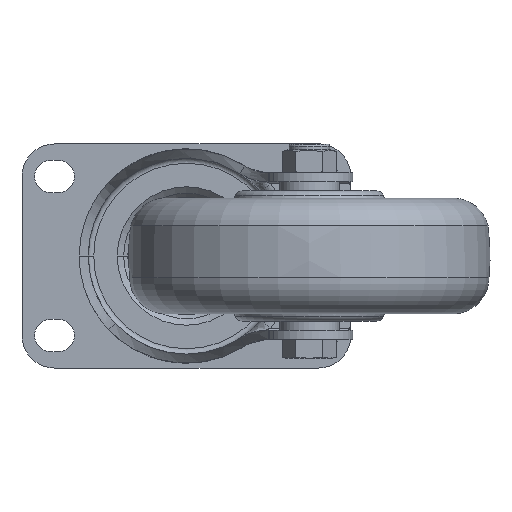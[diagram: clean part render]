
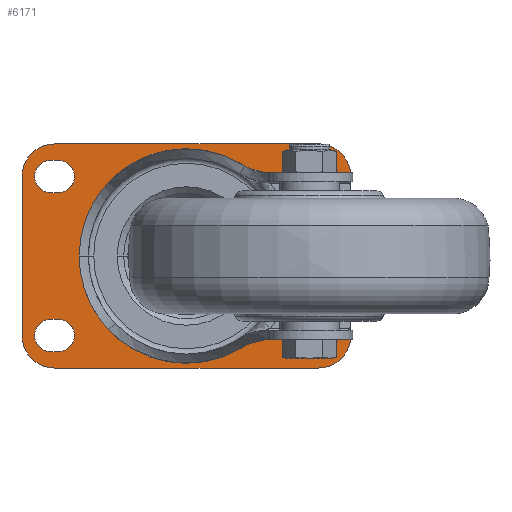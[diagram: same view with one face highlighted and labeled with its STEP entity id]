
A CAD part, front view. The second image highlights one B-rep face of the part: STEP entity #6171.
In plain terms, the highlighted planar face has unit normal (0, -1, 0).
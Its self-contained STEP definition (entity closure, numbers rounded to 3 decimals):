
#5396=DIRECTION('',(-1.,0.,0.));
#5397=VECTOR('',#5396,2.);
#5398=CARTESIAN_POINT('',(-35.5,7.5,-26.5));
#5399=LINE('',#5398,#5397);
#5400=CARTESIAN_POINT('',(-35.5,7.5,-22.));
#5401=DIRECTION('',(0.,-1.,0.));
#5402=DIRECTION('',(0.,0.,-1.));
#5403=AXIS2_PLACEMENT_3D('',#5400,#5401,#5402);
#5405=DIRECTION('',(1.,0.,0.));
#5406=VECTOR('',#5405,2.);
#5407=CARTESIAN_POINT('',(-37.5,7.5,-17.5));
#5408=LINE('',#5407,#5406);
#5409=CARTESIAN_POINT('',(-37.5,7.5,-22.));
#5410=DIRECTION('',(0.,-1.,0.));
#5411=DIRECTION('',(0.,0.,1.));
#5412=AXIS2_PLACEMENT_3D('',#5409,#5410,#5411);
#5414=CARTESIAN_POINT('',(37.5,7.5,-22.));
#5415=DIRECTION('',(0.,-1.,0.));
#5416=DIRECTION('',(0.,0.,-1.));
#5417=AXIS2_PLACEMENT_3D('',#5414,#5415,#5416);
#5419=DIRECTION('',(1.,0.,0.));
#5420=VECTOR('',#5419,2.);
#5421=CARTESIAN_POINT('',(35.5,7.5,-17.5));
#5422=LINE('',#5421,#5420);
#5423=CARTESIAN_POINT('',(35.5,7.5,-22.));
#5424=DIRECTION('',(0.,-1.,0.));
#5425=DIRECTION('',(0.,0.,1.));
#5426=AXIS2_PLACEMENT_3D('',#5423,#5424,#5425);
#5428=DIRECTION('',(-1.,0.,0.));
#5429=VECTOR('',#5428,2.);
#5430=CARTESIAN_POINT('',(37.5,7.5,-26.5));
#5431=LINE('',#5430,#5429);
#5432=DIRECTION('',(1.,0.,0.));
#5433=VECTOR('',#5432,2.);
#5434=CARTESIAN_POINT('',(35.5,7.5,26.5));
#5435=LINE('',#5434,#5433);
#5436=CARTESIAN_POINT('',(35.5,7.5,22.));
#5437=DIRECTION('',(0.,-1.,0.));
#5438=DIRECTION('',(0.,0.,1.));
#5439=AXIS2_PLACEMENT_3D('',#5436,#5437,#5438);
#5441=DIRECTION('',(-1.,0.,0.));
#5442=VECTOR('',#5441,2.);
#5443=CARTESIAN_POINT('',(37.5,7.5,17.5));
#5444=LINE('',#5443,#5442);
#5445=CARTESIAN_POINT('',(37.5,7.5,22.));
#5446=DIRECTION('',(0.,-1.,0.));
#5447=DIRECTION('',(0.,0.,-1.));
#5448=AXIS2_PLACEMENT_3D('',#5445,#5446,#5447);
#5450=CARTESIAN_POINT('',(-37.5,7.5,22.));
#5451=DIRECTION('',(0.,-1.,0.));
#5452=DIRECTION('',(0.,0.,1.));
#5453=AXIS2_PLACEMENT_3D('',#5450,#5451,#5452);
#5455=DIRECTION('',(-1.,0.,0.));
#5456=VECTOR('',#5455,2.);
#5457=CARTESIAN_POINT('',(-35.5,7.5,17.5));
#5458=LINE('',#5457,#5456);
#5459=CARTESIAN_POINT('',(-35.5,7.5,22.));
#5460=DIRECTION('',(0.,-1.,0.));
#5461=DIRECTION('',(0.,0.,-1.));
#5462=AXIS2_PLACEMENT_3D('',#5459,#5460,#5461);
#5464=DIRECTION('',(1.,0.,0.));
#5465=VECTOR('',#5464,2.);
#5466=CARTESIAN_POINT('',(-37.5,7.5,26.5));
#5467=LINE('',#5466,#5465);
#5468=CARTESIAN_POINT('',(36.5,7.5,-22.));
#5469=DIRECTION('',(0.,-1.,0.));
#5470=DIRECTION('',(0.,0.,-1.));
#5471=AXIS2_PLACEMENT_3D('',#5468,#5469,#5470);
#5473=DIRECTION('',(1.,0.,0.));
#5474=VECTOR('',#5473,73.);
#5475=CARTESIAN_POINT('',(-36.5,7.5,-31.));
#5476=LINE('',#5475,#5474);
#5477=CARTESIAN_POINT('',(-36.5,7.5,-22.));
#5478=DIRECTION('',(0.,-1.,0.));
#5479=DIRECTION('',(-1.,0.,0.));
#5480=AXIS2_PLACEMENT_3D('',#5477,#5478,#5479);
#5482=DIRECTION('',(0.,0.,-1.));
#5483=VECTOR('',#5482,44.);
#5484=CARTESIAN_POINT('',(-45.5,7.5,22.));
#5485=LINE('',#5484,#5483);
#5486=CARTESIAN_POINT('',(-36.5,7.5,22.));
#5487=DIRECTION('',(0.,-1.,0.));
#5488=DIRECTION('',(0.,0.,1.));
#5489=AXIS2_PLACEMENT_3D('',#5486,#5487,#5488);
#5491=DIRECTION('',(-1.,0.,0.));
#5492=VECTOR('',#5491,73.);
#5493=CARTESIAN_POINT('',(36.5,7.5,31.));
#5494=LINE('',#5493,#5492);
#5495=CARTESIAN_POINT('',(36.5,7.5,22.));
#5496=DIRECTION('',(0.,-1.,0.));
#5497=DIRECTION('',(1.,0.,0.));
#5498=AXIS2_PLACEMENT_3D('',#5495,#5496,#5497);
#5500=DIRECTION('',(0.,0.,1.));
#5501=VECTOR('',#5500,44.);
#5502=CARTESIAN_POINT('',(45.5,7.5,-22.));
#5503=LINE('',#5502,#5501);
#5504=CARTESIAN_POINT('',(0.,7.5,0.));
#5505=DIRECTION('',(0.,-1.,0.));
#5506=DIRECTION('',(-1.,0.,0.));
#5507=AXIS2_PLACEMENT_3D('',#5504,#5505,#5506);
#5509=CARTESIAN_POINT('',(0.,7.5,0.));
#5510=DIRECTION('',(0.,-1.,0.));
#5511=DIRECTION('',(1.,0.,0.));
#5512=AXIS2_PLACEMENT_3D('',#5509,#5510,#5511);
#5738=CARTESIAN_POINT('',(-35.5,7.5,-26.5));
#5739=CARTESIAN_POINT('',(-37.5,7.5,-26.5));
#5740=VERTEX_POINT('',#5738);
#5741=VERTEX_POINT('',#5739);
#5742=CARTESIAN_POINT('',(-35.5,7.5,-17.5));
#5743=VERTEX_POINT('',#5742);
#5744=CARTESIAN_POINT('',(-37.5,7.5,-17.5));
#5745=VERTEX_POINT('',#5744);
#5746=CARTESIAN_POINT('',(37.5,7.5,-26.5));
#5747=CARTESIAN_POINT('',(37.5,7.5,-17.5));
#5748=VERTEX_POINT('',#5746);
#5749=VERTEX_POINT('',#5747);
#5750=CARTESIAN_POINT('',(35.5,7.5,-17.5));
#5751=VERTEX_POINT('',#5750);
#5752=CARTESIAN_POINT('',(35.5,7.5,-26.5));
#5753=VERTEX_POINT('',#5752);
#5754=CARTESIAN_POINT('',(35.5,7.5,26.5));
#5755=CARTESIAN_POINT('',(37.5,7.5,26.5));
#5756=VERTEX_POINT('',#5754);
#5757=VERTEX_POINT('',#5755);
#5758=CARTESIAN_POINT('',(35.5,7.5,17.5));
#5759=VERTEX_POINT('',#5758);
#5760=CARTESIAN_POINT('',(37.5,7.5,17.5));
#5761=VERTEX_POINT('',#5760);
#5762=CARTESIAN_POINT('',(-37.5,7.5,26.5));
#5763=CARTESIAN_POINT('',(-37.5,7.5,17.5));
#5764=VERTEX_POINT('',#5762);
#5765=VERTEX_POINT('',#5763);
#5766=CARTESIAN_POINT('',(-35.5,7.5,17.5));
#5767=VERTEX_POINT('',#5766);
#5768=CARTESIAN_POINT('',(-35.5,7.5,26.5));
#5769=VERTEX_POINT('',#5768);
#5774=CARTESIAN_POINT('',(36.5,7.5,-31.));
#5775=VERTEX_POINT('',#5774);
#5776=CARTESIAN_POINT('',(45.5,7.5,-22.));
#5777=VERTEX_POINT('',#5776);
#5782=CARTESIAN_POINT('',(-45.5,7.5,-22.));
#5783=VERTEX_POINT('',#5782);
#5784=CARTESIAN_POINT('',(-36.5,7.5,-31.));
#5785=VERTEX_POINT('',#5784);
#5790=CARTESIAN_POINT('',(-36.5,7.5,31.));
#5791=VERTEX_POINT('',#5790);
#5792=CARTESIAN_POINT('',(-45.5,7.5,22.));
#5793=VERTEX_POINT('',#5792);
#5798=CARTESIAN_POINT('',(45.5,7.5,22.));
#5799=VERTEX_POINT('',#5798);
#5800=CARTESIAN_POINT('',(36.5,7.5,31.));
#5801=VERTEX_POINT('',#5800);
#5826=CARTESIAN_POINT('',(-21.,7.5,0.));
#5827=CARTESIAN_POINT('',(21.,7.5,0.));
#5828=VERTEX_POINT('',#5826);
#5829=VERTEX_POINT('',#5827);
#6106=CARTESIAN_POINT('',(0.,7.5,0.));
#6107=DIRECTION('',(0.,-1.,0.));
#6108=DIRECTION('',(-1.,0.,0.));
#6109=AXIS2_PLACEMENT_3D('',#6106,#6107,#6108);
#6110=PLANE('',#6109);
#6112=ORIENTED_EDGE('',*,*,#6111,.F.);
#6114=ORIENTED_EDGE('',*,*,#6113,.F.);
#6116=ORIENTED_EDGE('',*,*,#6115,.F.);
#6118=ORIENTED_EDGE('',*,*,#6117,.F.);
#6120=ORIENTED_EDGE('',*,*,#6119,.F.);
#6122=ORIENTED_EDGE('',*,*,#6121,.F.);
#6124=ORIENTED_EDGE('',*,*,#6123,.F.);
#6126=ORIENTED_EDGE('',*,*,#6125,.F.);
#6127=EDGE_LOOP('',(#6112,#6114,#6116,#6118,#6120,#6122,#6124,#6126));
#6128=FACE_OUTER_BOUND('',#6127,.F.);
#6130=ORIENTED_EDGE('',*,*,#6129,.T.);
#6132=ORIENTED_EDGE('',*,*,#6131,.F.);
#6134=ORIENTED_EDGE('',*,*,#6133,.T.);
#6136=ORIENTED_EDGE('',*,*,#6135,.F.);
#6137=EDGE_LOOP('',(#6130,#6132,#6134,#6136));
#6138=FACE_BOUND('',#6137,.F.);
#6140=ORIENTED_EDGE('',*,*,#6139,.F.);
#6142=ORIENTED_EDGE('',*,*,#6141,.T.);
#6144=ORIENTED_EDGE('',*,*,#6143,.F.);
#6146=ORIENTED_EDGE('',*,*,#6145,.T.);
#6147=EDGE_LOOP('',(#6140,#6142,#6144,#6146));
#6148=FACE_BOUND('',#6147,.F.);
#6150=ORIENTED_EDGE('',*,*,#6149,.T.);
#6152=ORIENTED_EDGE('',*,*,#6151,.F.);
#6154=ORIENTED_EDGE('',*,*,#6153,.T.);
#6156=ORIENTED_EDGE('',*,*,#6155,.F.);
#6157=EDGE_LOOP('',(#6150,#6152,#6154,#6156));
#6158=FACE_BOUND('',#6157,.F.);
#6159=ORIENTED_EDGE('',*,*,#6058,.F.);
#6160=ORIENTED_EDGE('',*,*,#6073,.T.);
#6161=ORIENTED_EDGE('',*,*,#6087,.F.);
#6162=ORIENTED_EDGE('',*,*,#6100,.T.);
#6163=EDGE_LOOP('',(#6159,#6160,#6161,#6162));
#6164=FACE_BOUND('',#6163,.F.);
#6166=ORIENTED_EDGE('',*,*,#6165,.T.);
#6168=ORIENTED_EDGE('',*,*,#6167,.T.);
#6169=EDGE_LOOP('',(#6166,#6168));
#6170=FACE_BOUND('',#6169,.F.);
#5404=CIRCLE('',#5403,4.5);
#5413=CIRCLE('',#5412,4.5);
#5418=CIRCLE('',#5417,4.5);
#5427=CIRCLE('',#5426,4.5);
#5440=CIRCLE('',#5439,4.5);
#5449=CIRCLE('',#5448,4.5);
#5454=CIRCLE('',#5453,4.5);
#5463=CIRCLE('',#5462,4.5);
#5472=CIRCLE('',#5471,9.);
#5481=CIRCLE('',#5480,9.);
#5490=CIRCLE('',#5489,9.);
#5499=CIRCLE('',#5498,9.);
#5508=CIRCLE('',#5507,21.);
#5513=CIRCLE('',#5512,21.);
#6058=EDGE_CURVE('',#5740,#5741,#5399,.T.);
#6073=EDGE_CURVE('',#5740,#5743,#5404,.T.);
#6087=EDGE_CURVE('',#5745,#5743,#5408,.T.);
#6100=EDGE_CURVE('',#5745,#5741,#5413,.T.);
#6111=EDGE_CURVE('',#5775,#5777,#5472,.T.);
#6113=EDGE_CURVE('',#5785,#5775,#5476,.T.);
#6115=EDGE_CURVE('',#5783,#5785,#5481,.T.);
#6117=EDGE_CURVE('',#5793,#5783,#5485,.T.);
#6119=EDGE_CURVE('',#5791,#5793,#5490,.T.);
#6121=EDGE_CURVE('',#5801,#5791,#5494,.T.);
#6123=EDGE_CURVE('',#5799,#5801,#5499,.T.);
#6125=EDGE_CURVE('',#5777,#5799,#5503,.T.);
#6129=EDGE_CURVE('',#5748,#5749,#5418,.T.);
#6131=EDGE_CURVE('',#5751,#5749,#5422,.T.);
#6133=EDGE_CURVE('',#5751,#5753,#5427,.T.);
#6135=EDGE_CURVE('',#5748,#5753,#5431,.T.);
#6139=EDGE_CURVE('',#5756,#5757,#5435,.T.);
#6141=EDGE_CURVE('',#5756,#5759,#5440,.T.);
#6143=EDGE_CURVE('',#5761,#5759,#5444,.T.);
#6145=EDGE_CURVE('',#5761,#5757,#5449,.T.);
#6149=EDGE_CURVE('',#5764,#5765,#5454,.T.);
#6151=EDGE_CURVE('',#5767,#5765,#5458,.T.);
#6153=EDGE_CURVE('',#5767,#5769,#5463,.T.);
#6155=EDGE_CURVE('',#5764,#5769,#5467,.T.);
#6165=EDGE_CURVE('',#5828,#5829,#5508,.T.);
#6167=EDGE_CURVE('',#5829,#5828,#5513,.T.);
#6171=ADVANCED_FACE('',(#6128,#6138,#6148,#6158,#6164,#6170),#6110,.T.);
